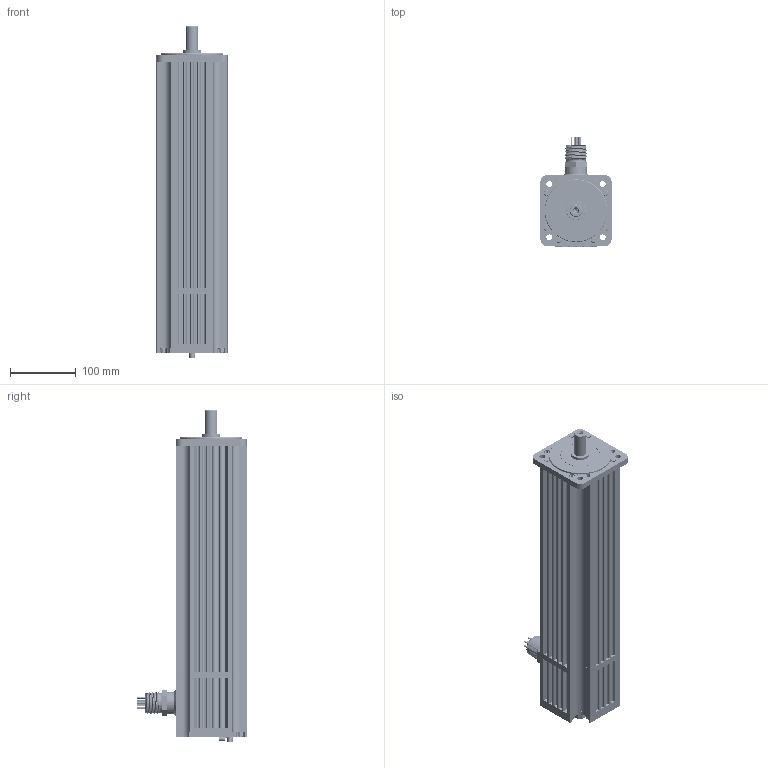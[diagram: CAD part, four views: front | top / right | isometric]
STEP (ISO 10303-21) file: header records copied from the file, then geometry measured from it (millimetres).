
FILE_DESCRIPTION (( 'STEP AP203' ), '1' );
FILE_NAME ('072789A.STEP', '2020-08-05T13:26:41', ( '' ), ( '' ), 'SwSTEP 2.0', 'SolidWorks 2019', '' );
FILE_SCHEMA (( 'CONFIG_CONTROL_DESIGN' ));
Products named in the file (1): 072789A
Bounding box: 108 x 166.17 x 504.77 mm (x, y, z)
Volume: 3458427.5 mm3; surface area: 884895.5 mm2
Topology: 148 solids, 148 shells, 5540 faces, 13842 edges, 8834 vertices
Faces by surface type: plane 2413, cylinder 2057, cone 504, bspline 348, torus 198, sphere 20
Entity records: 201186 total; most frequent: CARTESIAN_POINT 69123, DIRECTION 27434, ORIENTED_EDGE 27428, EDGE_CURVE 13714, AXIS2_PLACEMENT_3D 9958, VERTEX_POINT 8834, VECTOR 7518, LINE 7518
